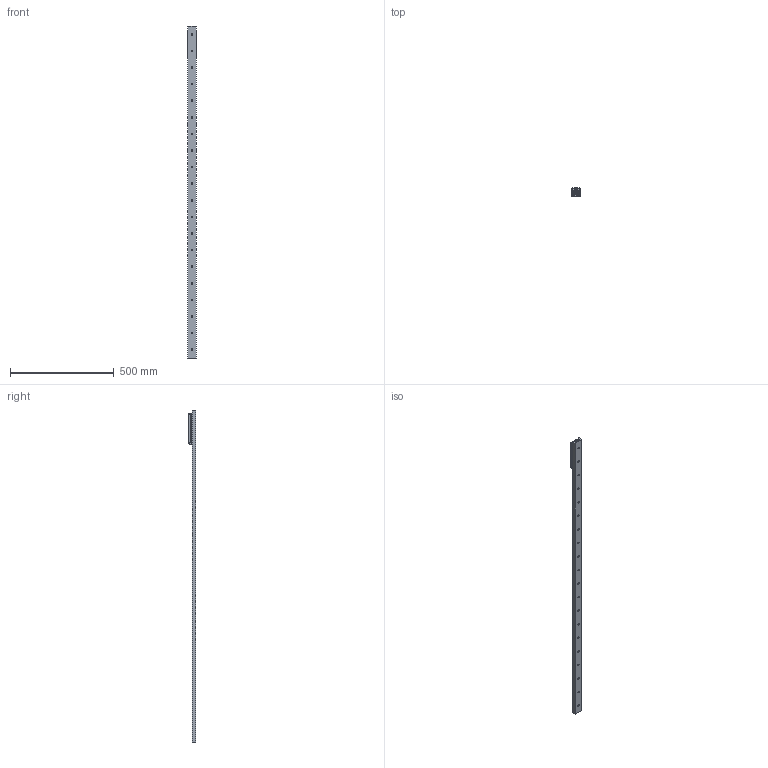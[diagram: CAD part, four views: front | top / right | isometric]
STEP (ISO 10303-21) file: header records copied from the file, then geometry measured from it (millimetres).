
FILE_DESCRIPTION( ( 'STEP AP214' ), '1' );
FILE_NAME( 'p:/temp/worker_49/temp/exporttempdir_3596_772_RBXFq/format_1/TGV-01600_1_RV43G-3.stp', '2021-06-09T19:32:01', ( 'License CC BY-ND 4.0' ), ( 'CADENAS' ), ' ', 'PARTsolutions', ' ' );
FILE_SCHEMA( ( 'AUTOMOTIVE_DESIGN { 1 0 10303 214 1 1 1 1 }' ) );
Length unit declared in the file: millimetre
Products named in the file (6): TGV-01600/1/RV43G-3; _TGV43-1600-(3-1); _RVG43-3-slider; _RGNV43R; _RGAV43R; _WR43G-01
Assembly tree (7 placements, depth 2):
  TGV-01600/1/RV43G-3
    _TGV43-1600-(3-1)
    _RVG43-3-slider
    _RGNV43R  x2
    _RGAV43R
    _WR43G-01  x2
Bounding box: 43 x 37 x 1600 mm (x, y, z)
Volume: 706682.7 mm3; surface area: 283827.2 mm2
Topology: 7 solids, 7 shells, 1081 faces, 2824 edges, 1839 vertices
Faces by surface type: plane 663, cylinder 316, cone 59, bspline 34, torus 9
Full cylindrical faces by diameter (mm): 1.76 x4, 3 x8, 6 x4, 6.647 x4, 6.8 x3, 8 x3, 8.5 x20, 11 x11, 15 x6, 15.5 x1, 18.98 x2, 19 x1, 31.4 x6
Entity records: 25893 total; most frequent: CARTESIAN_POINT 4086, DIRECTION 3467, ORIENTED_EDGE 3184, EDGE_CURVE 1592, AXIS2_PLACEMENT_3D 1330, VERTEX_POINT 1111, EDGE_LOOP 917, LINE 807
